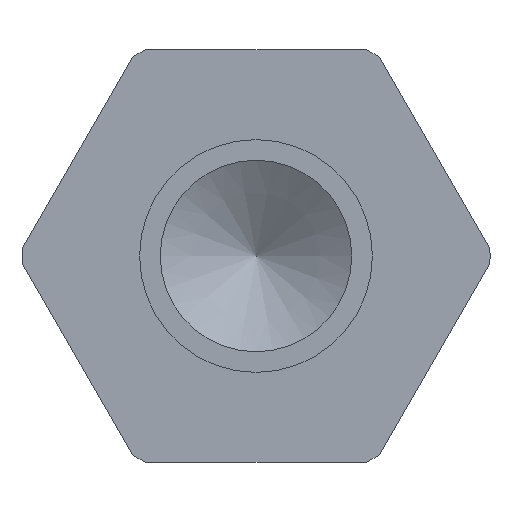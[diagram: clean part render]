
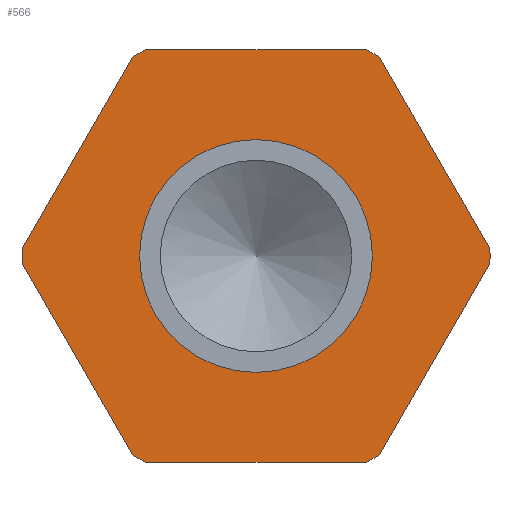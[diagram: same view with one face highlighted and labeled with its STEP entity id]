
A CAD part, left-side view. The second image highlights one B-rep face of the part: STEP entity #566.
In plain terms, the highlighted planar face has unit normal (-1, 0, 0).
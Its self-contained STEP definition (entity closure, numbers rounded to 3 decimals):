
#23=LINE($,#869,#63);
#26=LINE($,#875,#66);
#29=LINE($,#881,#69);
#32=LINE($,#887,#72);
#35=LINE($,#893,#75);
#37=LINE($,#901,#77);
#63=VECTOR($,#697,3.394);
#66=VECTOR($,#702,3.394);
#69=VECTOR($,#707,3.394);
#72=VECTOR($,#712,3.394);
#75=VECTOR($,#717,3.394);
#77=VECTOR($,#725,3.394);
#103=PLANE($,#613);
#117=FACE_BOUND($,#183,.T.);
#118=FACE_BOUND($,#184,.T.);
#183=EDGE_LOOP($,(#409));
#184=EDGE_LOOP($,(#410,#411,#412,#413,#414,#415,#416,#417,#418,#419,#420,
#421));
#225=CIRCLE($,#614,1.791);
#226=CIRCLE($,#615,3.6);
#227=CIRCLE($,#616,3.6);
#228=CIRCLE($,#617,3.6);
#229=CIRCLE($,#618,3.6);
#230=CIRCLE($,#619,3.6);
#231=CIRCLE($,#620,3.6);
#261=VERTEX_POINT($,#866);
#262=VERTEX_POINT($,#868);
#263=VERTEX_POINT($,#872);
#264=VERTEX_POINT($,#874);
#265=VERTEX_POINT($,#878);
#266=VERTEX_POINT($,#880);
#267=VERTEX_POINT($,#884);
#268=VERTEX_POINT($,#886);
#269=VERTEX_POINT($,#890);
#270=VERTEX_POINT($,#892);
#271=VERTEX_POINT($,#896);
#272=VERTEX_POINT($,#898);
#273=VERTEX_POINT($,#900);
#314=EDGE_CURVE($,#262,#261,#23,.T.);
#317=EDGE_CURVE($,#264,#263,#26,.T.);
#320=EDGE_CURVE($,#266,#265,#29,.T.);
#323=EDGE_CURVE($,#268,#267,#32,.T.);
#326=EDGE_CURVE($,#270,#269,#35,.T.);
#328=EDGE_CURVE($,#271,#271,#225,.T.);
#329=EDGE_CURVE($,#261,#272,#226,.T.);
#330=EDGE_CURVE($,#272,#273,#37,.T.);
#331=EDGE_CURVE($,#273,#270,#227,.T.);
#332=EDGE_CURVE($,#269,#268,#228,.T.);
#333=EDGE_CURVE($,#267,#266,#229,.T.);
#334=EDGE_CURVE($,#265,#264,#230,.T.);
#335=EDGE_CURVE($,#263,#262,#231,.T.);
#409=ORIENTED_EDGE($,*,*,#328,.F.);
#410=ORIENTED_EDGE($,*,*,#314,.T.);
#411=ORIENTED_EDGE($,*,*,#329,.T.);
#412=ORIENTED_EDGE($,*,*,#330,.T.);
#413=ORIENTED_EDGE($,*,*,#331,.T.);
#414=ORIENTED_EDGE($,*,*,#326,.T.);
#415=ORIENTED_EDGE($,*,*,#332,.T.);
#416=ORIENTED_EDGE($,*,*,#323,.T.);
#417=ORIENTED_EDGE($,*,*,#333,.T.);
#418=ORIENTED_EDGE($,*,*,#320,.T.);
#419=ORIENTED_EDGE($,*,*,#334,.T.);
#420=ORIENTED_EDGE($,*,*,#317,.T.);
#421=ORIENTED_EDGE($,*,*,#335,.T.);
#566=ADVANCED_FACE($,(#117,#118),#103,.T.);
#613=AXIS2_PLACEMENT_3D($,#895,#719,#720);
#614=AXIS2_PLACEMENT_3D($,#897,#721,#722);
#615=AXIS2_PLACEMENT_3D($,#899,#723,#724);
#616=AXIS2_PLACEMENT_3D($,#902,#726,#727);
#617=AXIS2_PLACEMENT_3D($,#903,#728,#729);
#618=AXIS2_PLACEMENT_3D($,#904,#730,#731);
#619=AXIS2_PLACEMENT_3D($,#905,#732,#733);
#620=AXIS2_PLACEMENT_3D($,#906,#734,#735);
#697=DIRECTION($,(0.,-0.5,-0.866));
#702=DIRECTION($,(0.,0.5,-0.866));
#707=DIRECTION($,(0.,1.,0.));
#712=DIRECTION($,(0.,0.5,0.866));
#717=DIRECTION($,(0.,-0.5,0.866));
#719=DIRECTION('center_axis',(-1.,0.,0.));
#720=DIRECTION('ref_axis',(0.,0.,1.));
#721=DIRECTION('center_axis',(-1.,0.,0.));
#722=DIRECTION('ref_axis',(0.,1.,0.));
#723=DIRECTION('center_axis',(-1.,0.,0.));
#724=DIRECTION('ref_axis',(0.,1.,0.));
#725=DIRECTION($,(0.,-1.,0.));
#726=DIRECTION('center_axis',(-1.,0.,0.));
#727=DIRECTION('ref_axis',(0.,1.,0.));
#728=DIRECTION('center_axis',(-1.,0.,0.));
#729=DIRECTION('ref_axis',(0.,1.,0.));
#730=DIRECTION('center_axis',(-1.,0.,0.));
#731=DIRECTION('ref_axis',(0.,1.,0.));
#732=DIRECTION('center_axis',(-1.,0.,0.));
#733=DIRECTION('ref_axis',(0.,1.,0.));
#734=DIRECTION('center_axis',(-1.,0.,0.));
#735=DIRECTION('ref_axis',(0.,1.,0.));
#866=CARTESIAN_POINT('',(-11.499,5.837,-3.057));
#868=CARTESIAN_POINT('',(-11.499,7.533,-0.118));
#869=CARTESIAN_POINT($,(-11.499,7.02,-1.008));
#872=CARTESIAN_POINT('',(-11.499,7.533,0.118));
#874=CARTESIAN_POINT('',(-11.499,5.837,3.057));
#875=CARTESIAN_POINT($,(-11.499,7.024,1.));
#878=CARTESIAN_POINT('',(-11.499,5.632,3.175));
#880=CARTESIAN_POINT('',(-11.499,2.238,3.175));
#881=CARTESIAN_POINT($,(-11.499,5.287,3.175));
#884=CARTESIAN_POINT('',(-11.499,2.034,3.057));
#886=CARTESIAN_POINT('',(-11.499,0.337,0.118));
#887=CARTESIAN_POINT($,(-11.499,1.525,2.175));
#890=CARTESIAN_POINT('',(-11.499,0.337,-0.118));
#892=CARTESIAN_POINT('',(-11.499,2.034,-3.057));
#893=CARTESIAN_POINT($,(-11.499,1.52,-2.167));
#895=CARTESIAN_POINT('Origin',(-11.499,6.631,0.));
#896=CARTESIAN_POINT('',(-11.499,5.726,0.));
#897=CARTESIAN_POINT('Origin',(-11.499,3.935,0.));
#898=CARTESIAN_POINT('',(-11.499,5.632,-3.175));
#899=CARTESIAN_POINT('Origin',(-11.499,3.935,0.));
#900=CARTESIAN_POINT('',(-11.499,2.238,-3.175));
#901=CARTESIAN_POINT($,(-11.499,5.279,-3.175));
#902=CARTESIAN_POINT('Origin',(-11.499,3.935,0.));
#903=CARTESIAN_POINT('Origin',(-11.499,3.935,0.));
#904=CARTESIAN_POINT('Origin',(-11.499,3.935,0.));
#905=CARTESIAN_POINT('Origin',(-11.499,3.935,0.));
#906=CARTESIAN_POINT('Origin',(-11.499,3.935,0.));
